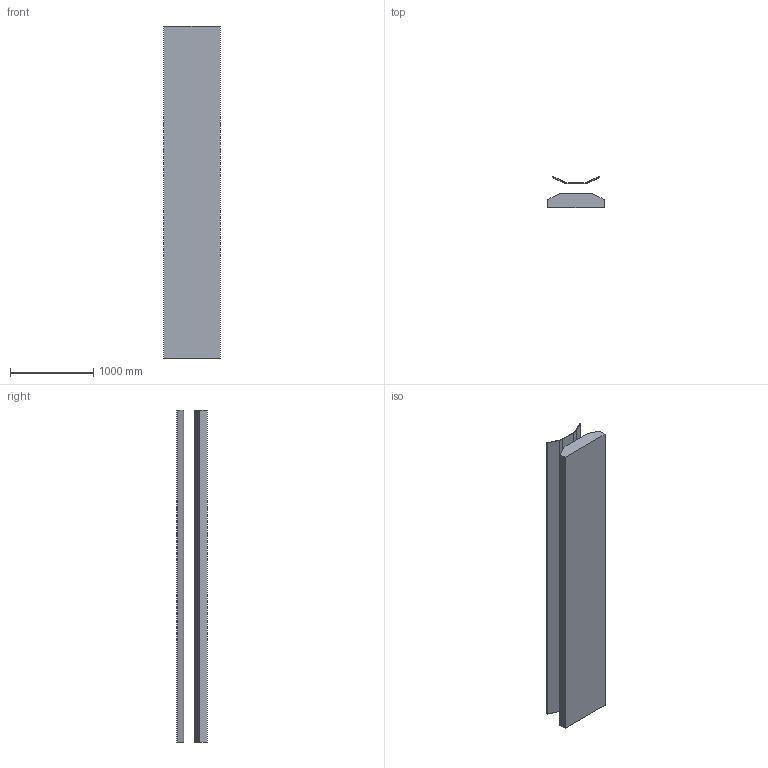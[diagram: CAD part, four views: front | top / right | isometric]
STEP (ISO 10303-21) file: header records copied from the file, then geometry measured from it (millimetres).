
FILE_DESCRIPTION (( 'STEP AP203' ), '1' );
FILE_NAME ('30772.step', '2019-03-14T14:33:08', ( 'PC' ), ( 'Hewlett-Packard Company' ), 'SwSTEP 2.0', 'SolidWorks 2016', '' );
FILE_SCHEMA (( 'CONFIG_CONTROL_DESIGN' ));
Length unit declared in the file: millimetre
Products named in the file (1): 30772
Bounding box: 680 x 369.39 x 4000 mm (x, y, z)
Volume: 415088214 mm3; surface area: 11335795.5 mm2
Topology: 2 solids, 2 shells, 22 faces, 54 edges, 36 vertices
Faces by surface type: plane 18, cylinder 4
Entity records: 721 total; most frequent: CARTESIAN_POINT 113, DIRECTION 108, ORIENTED_EDGE 108, EDGE_CURVE 54, LINE 46, VECTOR 46, VERTEX_POINT 36, AXIS2_PLACEMENT_3D 31
